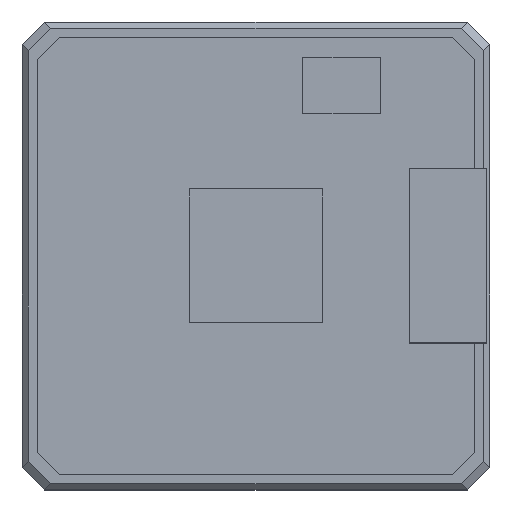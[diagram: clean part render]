
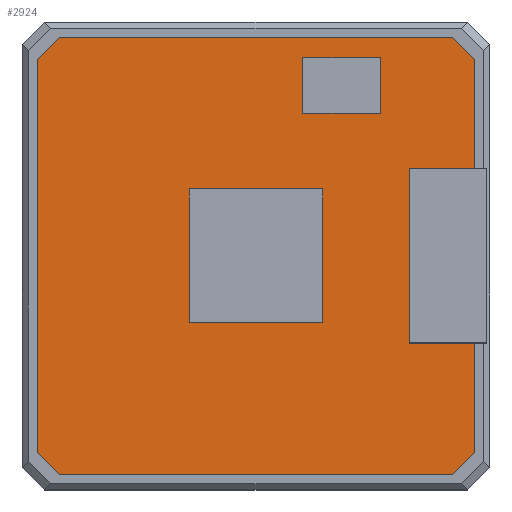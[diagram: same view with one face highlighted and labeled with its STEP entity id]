
A CAD part, top view. The second image highlights one B-rep face of the part: STEP entity #2924.
In plain terms, the highlighted planar face has unit normal (0, 0, 1).
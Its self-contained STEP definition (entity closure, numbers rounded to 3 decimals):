
#2302 = VERTEX_POINT('',#2303);
#2303 = CARTESIAN_POINT('',(-14.7,-16.35,8.4));
#2310 = PLANE('',#2311);
#2311 = AXIS2_PLACEMENT_3D('',#2312,#2313,#2314);
#2312 = CARTESIAN_POINT('',(-14.7,-16.35,6.85));
#2313 = DIRECTION('',(0.,1.,0.));
#2314 = DIRECTION('',(1.,0.,0.));
#2322 = PLANE('',#2323);
#2323 = AXIS2_PLACEMENT_3D('',#2324,#2325,#2326);
#2324 = CARTESIAN_POINT('',(-16.35,-14.7,6.85));
#2325 = DIRECTION('',(0.707,0.707,-0.));
#2326 = DIRECTION('',(0.707,-0.707,0.));
#2334 = EDGE_CURVE('',#2302,#2335,#2337,.T.);
#2335 = VERTEX_POINT('',#2336);
#2336 = CARTESIAN_POINT('',(14.7,-16.35,8.4));
#2337 = SURFACE_CURVE('',#2338,(#2342,#2349),.PCURVE_S1.);
#2338 = LINE('',#2339,#2340);
#2339 = CARTESIAN_POINT('',(-14.7,-16.35,8.4));
#2340 = VECTOR('',#2341,1.);
#2341 = DIRECTION('',(1.,0.,0.));
#2342 = PCURVE('',#2310,#2343);
#2343 = DEFINITIONAL_REPRESENTATION('',(#2344),#2348);
#2344 = LINE('',#2345,#2346);
#2345 = CARTESIAN_POINT('',(0.,-1.55));
#2346 = VECTOR('',#2347,1.);
#2347 = DIRECTION('',(1.,0.));
#2348 = ( GEOMETRIC_REPRESENTATION_CONTEXT(2) 
PARAMETRIC_REPRESENTATION_CONTEXT() REPRESENTATION_CONTEXT('2D SPACE',''
  ) );
#2349 = PCURVE('',#2350,#2355);
#2350 = PLANE('',#2351);
#2351 = AXIS2_PLACEMENT_3D('',#2352,#2353,#2354);
#2352 = CARTESIAN_POINT('',(0.,0.,8.4));
#2353 = DIRECTION('',(0.,0.,1.));
#2354 = DIRECTION('',(1.,0.,-0.));
#2355 = DEFINITIONAL_REPRESENTATION('',(#2356),#2360);
#2356 = LINE('',#2357,#2358);
#2357 = CARTESIAN_POINT('',(-14.7,-16.35));
#2358 = VECTOR('',#2359,1.);
#2359 = DIRECTION('',(1.,0.));
#2360 = ( GEOMETRIC_REPRESENTATION_CONTEXT(2) 
PARAMETRIC_REPRESENTATION_CONTEXT() REPRESENTATION_CONTEXT('2D SPACE',''
  ) );
#2378 = PLANE('',#2379);
#2379 = AXIS2_PLACEMENT_3D('',#2380,#2381,#2382);
#2380 = CARTESIAN_POINT('',(14.7,-16.35,6.85));
#2381 = DIRECTION('',(-0.707,0.707,0.));
#2382 = DIRECTION('',(0.707,0.707,0.));
#2420 = EDGE_CURVE('',#2335,#2421,#2423,.T.);
#2421 = VERTEX_POINT('',#2422);
#2422 = CARTESIAN_POINT('',(16.35,-14.7,8.4));
#2423 = SURFACE_CURVE('',#2424,(#2428,#2435),.PCURVE_S1.);
#2424 = LINE('',#2425,#2426);
#2425 = CARTESIAN_POINT('',(14.7,-16.35,8.4));
#2426 = VECTOR('',#2427,1.);
#2427 = DIRECTION('',(0.707,0.707,0.));
#2428 = PCURVE('',#2378,#2429);
#2429 = DEFINITIONAL_REPRESENTATION('',(#2430),#2434);
#2430 = LINE('',#2431,#2432);
#2431 = CARTESIAN_POINT('',(0.,-1.55));
#2432 = VECTOR('',#2433,1.);
#2433 = DIRECTION('',(1.,0.));
#2434 = ( GEOMETRIC_REPRESENTATION_CONTEXT(2) 
PARAMETRIC_REPRESENTATION_CONTEXT() REPRESENTATION_CONTEXT('2D SPACE',''
  ) );
#2435 = PCURVE('',#2350,#2436);
#2436 = DEFINITIONAL_REPRESENTATION('',(#2437),#2441);
#2437 = LINE('',#2438,#2439);
#2438 = CARTESIAN_POINT('',(14.7,-16.35));
#2439 = VECTOR('',#2440,1.);
#2440 = DIRECTION('',(0.707,0.707));
#2441 = ( GEOMETRIC_REPRESENTATION_CONTEXT(2) 
PARAMETRIC_REPRESENTATION_CONTEXT() REPRESENTATION_CONTEXT('2D SPACE',''
  ) );
#2459 = PLANE('',#2460);
#2460 = AXIS2_PLACEMENT_3D('',#2461,#2462,#2463);
#2461 = CARTESIAN_POINT('',(16.35,-14.7,6.85));
#2462 = DIRECTION('',(-1.,0.,0.));
#2463 = DIRECTION('',(0.,1.,0.));
#2496 = EDGE_CURVE('',#2421,#2497,#2499,.T.);
#2497 = VERTEX_POINT('',#2498);
#2498 = CARTESIAN_POINT('',(16.35,14.7,8.4));
#2499 = SURFACE_CURVE('',#2500,(#2504,#2511),.PCURVE_S1.);
#2500 = LINE('',#2501,#2502);
#2501 = CARTESIAN_POINT('',(16.35,-14.7,8.4));
#2502 = VECTOR('',#2503,1.);
#2503 = DIRECTION('',(0.,1.,0.));
#2504 = PCURVE('',#2459,#2505);
#2505 = DEFINITIONAL_REPRESENTATION('',(#2506),#2510);
#2506 = LINE('',#2507,#2508);
#2507 = CARTESIAN_POINT('',(0.,-1.55));
#2508 = VECTOR('',#2509,1.);
#2509 = DIRECTION('',(1.,0.));
#2510 = ( GEOMETRIC_REPRESENTATION_CONTEXT(2) 
PARAMETRIC_REPRESENTATION_CONTEXT() REPRESENTATION_CONTEXT('2D SPACE',''
  ) );
#2511 = PCURVE('',#2350,#2512);
#2512 = DEFINITIONAL_REPRESENTATION('',(#2513),#2517);
#2513 = LINE('',#2514,#2515);
#2514 = CARTESIAN_POINT('',(16.35,-14.7));
#2515 = VECTOR('',#2516,1.);
#2516 = DIRECTION('',(0.,1.));
#2517 = ( GEOMETRIC_REPRESENTATION_CONTEXT(2) 
PARAMETRIC_REPRESENTATION_CONTEXT() REPRESENTATION_CONTEXT('2D SPACE',''
  ) );
#2535 = PLANE('',#2536);
#2536 = AXIS2_PLACEMENT_3D('',#2537,#2538,#2539);
#2537 = CARTESIAN_POINT('',(16.35,14.7,6.85));
#2538 = DIRECTION('',(-0.707,-0.707,0.));
#2539 = DIRECTION('',(-0.707,0.707,0.));
#2572 = EDGE_CURVE('',#2497,#2573,#2575,.T.);
#2573 = VERTEX_POINT('',#2574);
#2574 = CARTESIAN_POINT('',(14.7,16.35,8.4));
#2575 = SURFACE_CURVE('',#2576,(#2580,#2587),.PCURVE_S1.);
#2576 = LINE('',#2577,#2578);
#2577 = CARTESIAN_POINT('',(16.35,14.7,8.4));
#2578 = VECTOR('',#2579,1.);
#2579 = DIRECTION('',(-0.707,0.707,0.));
#2580 = PCURVE('',#2535,#2581);
#2581 = DEFINITIONAL_REPRESENTATION('',(#2582),#2586);
#2582 = LINE('',#2583,#2584);
#2583 = CARTESIAN_POINT('',(0.,-1.55));
#2584 = VECTOR('',#2585,1.);
#2585 = DIRECTION('',(1.,0.));
#2586 = ( GEOMETRIC_REPRESENTATION_CONTEXT(2) 
PARAMETRIC_REPRESENTATION_CONTEXT() REPRESENTATION_CONTEXT('2D SPACE',''
  ) );
#2587 = PCURVE('',#2350,#2588);
#2588 = DEFINITIONAL_REPRESENTATION('',(#2589),#2593);
#2589 = LINE('',#2590,#2591);
#2590 = CARTESIAN_POINT('',(16.35,14.7));
#2591 = VECTOR('',#2592,1.);
#2592 = DIRECTION('',(-0.707,0.707));
#2593 = ( GEOMETRIC_REPRESENTATION_CONTEXT(2) 
PARAMETRIC_REPRESENTATION_CONTEXT() REPRESENTATION_CONTEXT('2D SPACE',''
  ) );
#2611 = PLANE('',#2612);
#2612 = AXIS2_PLACEMENT_3D('',#2613,#2614,#2615);
#2613 = CARTESIAN_POINT('',(14.7,16.35,6.85));
#2614 = DIRECTION('',(0.,-1.,0.));
#2615 = DIRECTION('',(-1.,0.,0.));
#2648 = EDGE_CURVE('',#2573,#2649,#2651,.T.);
#2649 = VERTEX_POINT('',#2650);
#2650 = CARTESIAN_POINT('',(-14.7,16.35,8.4));
#2651 = SURFACE_CURVE('',#2652,(#2656,#2663),.PCURVE_S1.);
#2652 = LINE('',#2653,#2654);
#2653 = CARTESIAN_POINT('',(14.7,16.35,8.4));
#2654 = VECTOR('',#2655,1.);
#2655 = DIRECTION('',(-1.,0.,0.));
#2656 = PCURVE('',#2611,#2657);
#2657 = DEFINITIONAL_REPRESENTATION('',(#2658),#2662);
#2658 = LINE('',#2659,#2660);
#2659 = CARTESIAN_POINT('',(0.,-1.55));
#2660 = VECTOR('',#2661,1.);
#2661 = DIRECTION('',(1.,0.));
#2662 = ( GEOMETRIC_REPRESENTATION_CONTEXT(2) 
PARAMETRIC_REPRESENTATION_CONTEXT() REPRESENTATION_CONTEXT('2D SPACE',''
  ) );
#2663 = PCURVE('',#2350,#2664);
#2664 = DEFINITIONAL_REPRESENTATION('',(#2665),#2669);
#2665 = LINE('',#2666,#2667);
#2666 = CARTESIAN_POINT('',(14.7,16.35));
#2667 = VECTOR('',#2668,1.);
#2668 = DIRECTION('',(-1.,0.));
#2669 = ( GEOMETRIC_REPRESENTATION_CONTEXT(2) 
PARAMETRIC_REPRESENTATION_CONTEXT() REPRESENTATION_CONTEXT('2D SPACE',''
  ) );
#2687 = PLANE('',#2688);
#2688 = AXIS2_PLACEMENT_3D('',#2689,#2690,#2691);
#2689 = CARTESIAN_POINT('',(-14.7,16.35,6.85));
#2690 = DIRECTION('',(0.707,-0.707,0.));
#2691 = DIRECTION('',(-0.707,-0.707,0.));
#2724 = EDGE_CURVE('',#2649,#2725,#2727,.T.);
#2725 = VERTEX_POINT('',#2726);
#2726 = CARTESIAN_POINT('',(-16.35,14.7,8.4));
#2727 = SURFACE_CURVE('',#2728,(#2732,#2739),.PCURVE_S1.);
#2728 = LINE('',#2729,#2730);
#2729 = CARTESIAN_POINT('',(-14.7,16.35,8.4));
#2730 = VECTOR('',#2731,1.);
#2731 = DIRECTION('',(-0.707,-0.707,0.));
#2732 = PCURVE('',#2687,#2733);
#2733 = DEFINITIONAL_REPRESENTATION('',(#2734),#2738);
#2734 = LINE('',#2735,#2736);
#2735 = CARTESIAN_POINT('',(0.,-1.55));
#2736 = VECTOR('',#2737,1.);
#2737 = DIRECTION('',(1.,0.));
#2738 = ( GEOMETRIC_REPRESENTATION_CONTEXT(2) 
PARAMETRIC_REPRESENTATION_CONTEXT() REPRESENTATION_CONTEXT('2D SPACE',''
  ) );
#2739 = PCURVE('',#2350,#2740);
#2740 = DEFINITIONAL_REPRESENTATION('',(#2741),#2745);
#2741 = LINE('',#2742,#2743);
#2742 = CARTESIAN_POINT('',(-14.7,16.35));
#2743 = VECTOR('',#2744,1.);
#2744 = DIRECTION('',(-0.707,-0.707));
#2745 = ( GEOMETRIC_REPRESENTATION_CONTEXT(2) 
PARAMETRIC_REPRESENTATION_CONTEXT() REPRESENTATION_CONTEXT('2D SPACE',''
  ) );
#2763 = PLANE('',#2764);
#2764 = AXIS2_PLACEMENT_3D('',#2765,#2766,#2767);
#2765 = CARTESIAN_POINT('',(-16.35,14.7,6.85));
#2766 = DIRECTION('',(1.,0.,-0.));
#2767 = DIRECTION('',(0.,-1.,0.));
#2800 = EDGE_CURVE('',#2725,#2801,#2803,.T.);
#2801 = VERTEX_POINT('',#2802);
#2802 = CARTESIAN_POINT('',(-16.35,-14.7,8.4));
#2803 = SURFACE_CURVE('',#2804,(#2808,#2815),.PCURVE_S1.);
#2804 = LINE('',#2805,#2806);
#2805 = CARTESIAN_POINT('',(-16.35,14.7,8.4));
#2806 = VECTOR('',#2807,1.);
#2807 = DIRECTION('',(0.,-1.,0.));
#2808 = PCURVE('',#2763,#2809);
#2809 = DEFINITIONAL_REPRESENTATION('',(#2810),#2814);
#2810 = LINE('',#2811,#2812);
#2811 = CARTESIAN_POINT('',(0.,-1.55));
#2812 = VECTOR('',#2813,1.);
#2813 = DIRECTION('',(1.,0.));
#2814 = ( GEOMETRIC_REPRESENTATION_CONTEXT(2) 
PARAMETRIC_REPRESENTATION_CONTEXT() REPRESENTATION_CONTEXT('2D SPACE',''
  ) );
#2815 = PCURVE('',#2350,#2816);
#2816 = DEFINITIONAL_REPRESENTATION('',(#2817),#2821);
#2817 = LINE('',#2818,#2819);
#2818 = CARTESIAN_POINT('',(-16.35,14.7));
#2819 = VECTOR('',#2820,1.);
#2820 = DIRECTION('',(0.,-1.));
#2821 = ( GEOMETRIC_REPRESENTATION_CONTEXT(2) 
PARAMETRIC_REPRESENTATION_CONTEXT() REPRESENTATION_CONTEXT('2D SPACE',''
  ) );
#2871 = EDGE_CURVE('',#2801,#2302,#2872,.T.);
#2872 = SURFACE_CURVE('',#2873,(#2877,#2884),.PCURVE_S1.);
#2873 = LINE('',#2874,#2875);
#2874 = CARTESIAN_POINT('',(-16.35,-14.7,8.4));
#2875 = VECTOR('',#2876,1.);
#2876 = DIRECTION('',(0.707,-0.707,0.));
#2877 = PCURVE('',#2322,#2878);
#2878 = DEFINITIONAL_REPRESENTATION('',(#2879),#2883);
#2879 = LINE('',#2880,#2881);
#2880 = CARTESIAN_POINT('',(0.,-1.55));
#2881 = VECTOR('',#2882,1.);
#2882 = DIRECTION('',(1.,0.));
#2883 = ( GEOMETRIC_REPRESENTATION_CONTEXT(2) 
PARAMETRIC_REPRESENTATION_CONTEXT() REPRESENTATION_CONTEXT('2D SPACE',''
  ) );
#2884 = PCURVE('',#2350,#2885);
#2885 = DEFINITIONAL_REPRESENTATION('',(#2886),#2890);
#2886 = LINE('',#2887,#2888);
#2887 = CARTESIAN_POINT('',(-16.35,-14.7));
#2888 = VECTOR('',#2889,1.);
#2889 = DIRECTION('',(0.707,-0.707));
#2890 = ( GEOMETRIC_REPRESENTATION_CONTEXT(2) 
PARAMETRIC_REPRESENTATION_CONTEXT() REPRESENTATION_CONTEXT('2D SPACE',''
  ) );
#2924 = ADVANCED_FACE('',(#2925),#2350,.T.);
#2925 = FACE_BOUND('',#2926,.T.);
#2926 = EDGE_LOOP('',(#2927,#2928,#2929,#2930,#2931,#2932,#2933,#2934));
#2927 = ORIENTED_EDGE('',*,*,#2334,.T.);
#2928 = ORIENTED_EDGE('',*,*,#2420,.T.);
#2929 = ORIENTED_EDGE('',*,*,#2496,.T.);
#2930 = ORIENTED_EDGE('',*,*,#2572,.T.);
#2931 = ORIENTED_EDGE('',*,*,#2648,.T.);
#2932 = ORIENTED_EDGE('',*,*,#2724,.T.);
#2933 = ORIENTED_EDGE('',*,*,#2800,.T.);
#2934 = ORIENTED_EDGE('',*,*,#2871,.T.);
